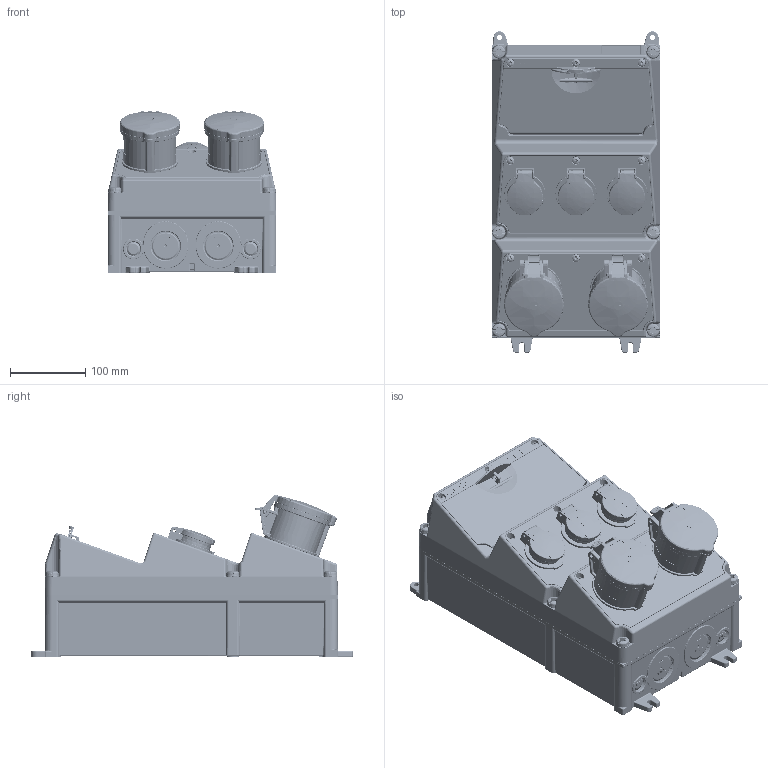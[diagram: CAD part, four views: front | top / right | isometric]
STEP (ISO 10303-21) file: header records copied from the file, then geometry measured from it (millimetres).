
FILE_DESCRIPTION((''),'2;1');
FILE_NAME('930015-3_ASM_1_ASM','2018-05-07T',('weltickej'),('MENNEKES'),'PRO/ENGINEER BY PARAMETRIC TECHNOLOGY CORPORATION, 2015440','PRO/ENGINEER BY PARAMETRIC TECHNOLOGY CORPORATION, 2015440','');
FILE_SCHEMA(('AUTOMOTIVE_DESIGN { 1 0 10303 214 1 1 1 1 }'));
Products named in the file (8): 3-4_SW_O_GRAU_1; LS_3POL_3TE_1; LS_1POL_1TE_1; MP_LEER_GRAU_1; MP_FEN10_44_OBEN_GRAU_1; AMAXX_CEE_32_5_44_ROT_1; AMAXX_SCHUKO_44_BLAU_1; 930015-3_ASM_1_ASM
Assembly tree (14 placements, depth 2):
  930015-3_ASM_1_ASM
    3-4_SW_O_GRAU_1
    LS_3POL_3TE_1  x2
    LS_1POL_1TE_1  x3
    MP_LEER_GRAU_1  x2
    MP_FEN10_44_OBEN_GRAU_1
    AMAXX_CEE_32_5_44_ROT_1  x2
    AMAXX_SCHUKO_44_BLAU_1  x3
Bounding box: 225 x 428.2 x 215.76 mm (x, y, z)
Volume: 9454440.6 mm3; surface area: 1086734.6 mm2
Topology: 14 solids, 14 shells, 12127 faces, 33578 edges, 21546 vertices
Faces by surface type: plane 5825, cylinder 3320, torus 1065, bspline 1055, cone 327, sphere 306, extrusion 229
Entity records: 386537 total; most frequent: CARTESIAN_POINT 117477, ORIENTED_EDGE 47030, DIRECTION 41330, EDGE_CURVE 23515, VERTEX_POINT 15047, AXIS2_PLACEMENT_3D 14365, VECTOR 12600, LINE 12452
